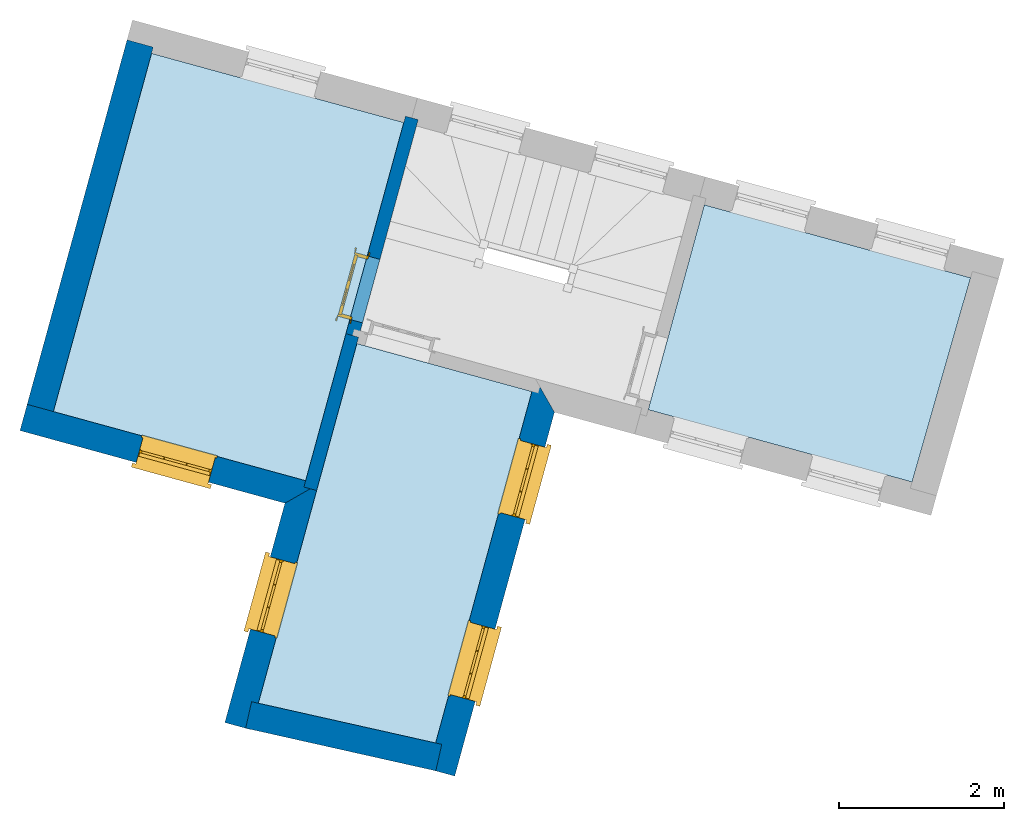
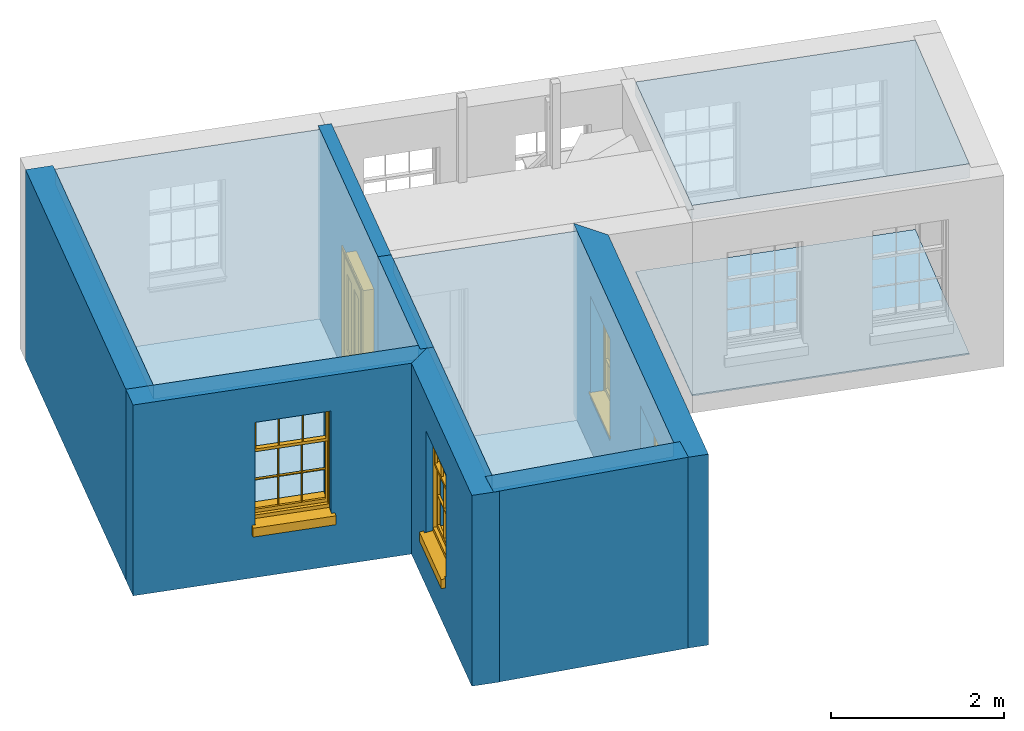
# One storey, part 1 of 4: 7 walls, 6 slabs, 4 windows, 1 door, 5 openings.
"""IFC4 building model written with IfcOpenShell, lengths in metres."""

from ifc_helpers import new_model, si_unit, frame, origin, origin_with_axes, place, context, subcontext, project, spatial, polyline, outline, extrude, faceted_brep, source, transform, mapped, material, layer, layer_set, layer_usage, type_object, type_shapes, element, fill, save


model = new_model("IFC4")

# Units and contexts
model_context = context("Model", 3, world=origin_with_axes())
body_context = subcontext(model_context, "Body", "Model", "MODEL_VIEW")
ifc_project = project(units=[si_unit("PLANEANGLEUNIT", "RADIAN"), si_unit("MASSUNIT", "GRAM", prefix="KILO"), si_unit("FORCEUNIT", "NEWTON", prefix="KILO"), si_unit("LENGTHUNIT", "METRE"), si_unit("AREAUNIT", "SQUARE_METRE"), si_unit("VOLUMEUNIT", "CUBIC_METRE")], contexts=[model_context, model_context])

# Sites, building, storey
site_1_placement = place(None, origin_with_axes())
site_1 = spatial("IfcSite", under=ifc_project, at=site_1_placement, Name="Tamar")
site_2_placement = place(site_1_placement, origin_with_axes())
site_2 = spatial("IfcSite", under=site_1, at=site_2_placement, Name="Site plot-29", CompositionType="ELEMENT")
building_placement = place(None, origin_with_axes())
building = spatial("IfcBuilding", under=site_2, at=building_placement, Name="Building plot-29", CompositionType="ELEMENT")
storey_placement = place(None, frame((0.0, 0.0, 27.85), z_axis=(0.0, 0.0, 1.0), x_axis=(1.0, 0.0, 0.0)))
storey = spatial("IfcBuildingStorey", under=building, at=storey_placement, Name="plot-29 1", CompositionType="ELEMENT", Elevation=27.85)

# Slabs
slab_1_placement = place(storey_placement, frame((275.742884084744, 261.851314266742, 2.5)))
element("IfcSlab", 1, at=slab_1_placement, inside=storey, Name="My Slab", ObjectType="Slab", PredefinedType="FLOOR", context=body_context, shape_type="SweptSolid", body=[
    extrude(outline(polyline([(0.0, 0.0), (-2.12536575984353, 0.58233975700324), (-3.3218194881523, -3.78435813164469), (-1.16918607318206, -4.26717911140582), (0.0, 0.0)])), origin_with_axes(), (0.0, 0.0, 1.0), 0.2),
])
slab_2_placement = place(storey_placement, frame((275.742884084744, 261.851314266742, 0.0)))
element("IfcSlab", 2, at=slab_2_placement, inside=storey, Name="My Slab", ObjectType="Slab", PredefinedType="FLOOR", context=body_context, shape_type="SweptSolid", body=[
    extrude(outline(polyline([(0.0, 0.0), (-2.12536575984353, 0.58233975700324), (-3.3218194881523, -3.78435813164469), (-1.16918607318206, -4.26717911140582), (0.0, 0.0)])), origin_with_axes(), (0.0, 0.0, 1.0), 0.02),
])
slab_3_placement = place(storey_placement, frame((271.124319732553, 265.95684025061, 2.5)))
element("IfcSlab", 3, at=slab_3_placement, inside=storey, Name="My Slab", ObjectType="Slab", PredefinedType="FLOOR", context=body_context, shape_type="SweptSolid", body=[
    extrude(outline(polyline([(0.0, 0.0), (-1.19153948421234, -4.34876236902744), (1.87116989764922, -5.18792966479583), (3.06270938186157, -0.83916729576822), (0.0, 0.0)])), origin_with_axes(), (0.0, 0.0, 1.0), 0.2),
])
slab_4_placement = place(storey_placement, frame((271.124319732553, 265.95684025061, 0.0)))
element("IfcSlab", 4, at=slab_4_placement, inside=storey, Name="My Slab", ObjectType="Slab", PredefinedType="FLOOR", context=body_context, shape_type="SweptSolid", body=[
    extrude(outline(polyline([(0.0, 0.0), (-1.19153948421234, -4.34876236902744), (1.87116989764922, -5.18792966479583), (3.06270938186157, -0.83916729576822), (0.0, 0.0)])), origin_with_axes(), (0.0, 0.0, 1.0), 0.02),
])
slab_5_placement = place(storey_placement, frame((280.358705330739, 260.752499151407, 2.5)))
element("IfcSlab", 5, at=slab_5_placement, inside=storey, Name="My Slab", ObjectType="Slab", PredefinedType="FLOOR", context=body_context, shape_type="SweptSolid", body=[
    extrude(outline(polyline([(0.0, 0.0), (0.709545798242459, 2.47975284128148), (-2.52236486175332, 3.36528045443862), (-3.20390724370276, 0.877854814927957), (0.0, 0.0)])), origin_with_axes(), (0.0, 0.0, 1.0), 0.2),
])
slab_6_placement = place(storey_placement, frame((280.358705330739, 260.752499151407, 0.0)))
element("IfcSlab", 6, at=slab_6_placement, inside=storey, Name="My Slab", ObjectType="Slab", PredefinedType="FLOOR", context=body_context, shape_type="SweptSolid", body=[
    extrude(outline(polyline([(0.0, 0.0), (0.709545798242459, 2.47975284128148), (-2.52236486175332, 3.36528045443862), (-3.20390724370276, 0.877854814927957), (0.0, 0.0)])), origin_with_axes(), (0.0, 0.0, 1.0), 0.02),
])

# Wall, openings, windows
ifc_material_1 = material(Name="Masonry")
ifc_layer_1 = layer(ifc_material_1, 0.33, ventilated=False)
ifc_layer_set_1 = layer_set([ifc_layer_1], Name="exterior_0.08_0.25")
ifc_layer_usage_1 = layer_usage(ifc_layer_set_1, "AXIS2", "POSITIVE", -0.25)
wall_type_1 = type_object("IfcWallType", Name="exterior_0.08_0.25", PredefinedType="SOLIDWALL", material=ifc_layer_set_1)
wall_1_placement = place(storey_placement, frame((274.630680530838, 257.489366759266, 0.0), z_axis=(0.0, 0.0, 1.0), x_axis=(0.264255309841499, 0.964452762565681, 0.0)))
wall_1 = element("IfcWall", 7, at=wall_1_placement, inside=storey, type_object=wall_type_1, material=ifc_layer_usage_1, Name="exterior", context=body_context, shape_type="SweptSolid", body=[
    extrude(outline(polyline([(-0.250000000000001, 0.0800000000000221), (-0.250000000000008, -0.250000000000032), (4.33079801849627, -0.250000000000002), (4.66079801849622, 0.0800000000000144), (-0.250000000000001, 0.0800000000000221)])), origin_with_axes(), (0.0, 0.0, 1.0), 2.7),
])
opening_1_placement = place(wall_1_placement, frame((0.690199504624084, 0.0, 0.75)))
opening_1 = element("IfcOpeningElement", 8, at=opening_1_placement, cuts=wall_1, Name="My Opening", ObjectType="Opening", context=body_context, shape_type="SweptSolid", body=[
    extrude(outline(polyline([(0.0, -0.270000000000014), (0.909999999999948, -0.270000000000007), (0.909999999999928, 1.1), (-2.03170813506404e-14, 1.09999999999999), (0.0, -0.270000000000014)])), origin_with_axes(), (0.0, 0.0, 1.0), 1.445),
])
opening_2_placement = place(wall_1_placement, frame((2.98059851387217, 0.0, 0.75)))
opening_2 = element("IfcOpeningElement", 9, at=opening_2_placement, cuts=wall_1, Name="My Opening", ObjectType="Opening", context=body_context, shape_type="SweptSolid", body=[
    extrude(outline(polyline([(0.0, -0.270000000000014), (0.909999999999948, -0.270000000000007), (0.909999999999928, 1.1), (-1.99840144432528e-14, 1.09999999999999), (0.0, -0.270000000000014)])), origin_with_axes(), (0.0, 0.0, 1.0), 1.445),
])
window_type = type_object("IfcWindowType", Name="sash_shorter", PartitioningType="DOUBLE_PANEL_HORIZONTAL", PredefinedType="NOTDEFINED")
shared_shape_1 = source(origin(), body_context, "Body", "Brep", [
    faceted_brep([(0.876875, 0.145, 0.999097), (0.876875, 0.145, 1.411875), (0.9, 0.145, 1.435), (0.033125, 0.145, 1.411875), (0.033125, 0.145, 0.999097), (0.01, 0.145, 1.435), (0.033125, 0.115, 1.411875), (0.01, 0.115, 1.435), (0.033125, 0.115, 0.999097), (0.876875, 0.115, 1.411875), (0.876875, 0.115, 0.999097), (0.9, 0.115, 1.435), (0.033125, 0.145, 0.960972), (0.01, 0.145, 0.960972), (0.033125, 0.145, 0.548195), (0.876875, 0.145, 0.960972), (0.876875, 0.145, 0.548195), (0.9, 0.145, 0.960972), (0.876875, 0.145, 0.538195), (0.876875, 0.145, 0.125417), (0.9, 0.145, 0.077167), (0.033125, 0.145, 0.125417), (0.033125, 0.145, 0.538195), (0.01, 0.145, 0.077167), (0.9, 0.115, 0.960972), (0.01, 0.115, 0.960972), (-0.0425, 0.0, 0.01), (-0.0425, -0.05, 0.001667), (0.0, 0.0, 0.01), (0.9525, 0.0, 0.01), (0.91, 0.0, 0.01), (0.9525, -0.05, 0.001667), (-0.02, 0.33, 0.077167), (0.0, 0.33, 0.077167), (-0.02, 0.36, 0.077167), (0.0, 0.19, 0.077167), (0.01, 0.19, 0.077167), (0.91, 0.19, 0.077167), (0.91, 0.33, 0.077167), (0.9, 0.19, 0.077167), (0.93, 0.33, 0.077167), (0.93, 0.36, 0.077167), (0.01, 0.145, 0.999097), (0.01, 0.175, 0.999097), (0.9, 0.145, 0.999097), (0.9, 0.175, 0.999097), (0.876875, 0.175, 0.125417), (0.876875, 0.175, 0.538195), (0.9, 0.175, 0.077167), (0.876875, 0.175, 0.548195), (0.876875, 0.175, 0.960972), (0.033125, 0.175, 0.125417), (0.01, 0.175, 0.077167), (0.033125, 0.175, 0.538195), (0.033125, 0.175, 0.960972), (0.033125, 0.175, 0.548195), (-0.02, 0.33, 0.052167), (-0.02, 0.36, 0.052167), (0.93, 0.36, 0.052167), (0.93, 0.33, 0.052167), (0.91, 0.33, 0.052167), (0.0, 0.33, 0.052167), (0.91, 0.1, 0.026667), (0.0, 0.1, 0.026667), (-0.0425, -0.05, -0.123333), (0.9525, -0.05, -0.123333), (-0.0425, 0.0, -0.123333), (0.9525, 0.0, -0.123333), (0.01, 0.19, 1.435), (0.9, 0.19, 1.435), (0.0, 0.19, 1.445), (0.91, 0.19, 1.445), (0.01, 0.1, 0.077167), (0.9, 0.1, 0.077167), (0.592292, 0.145, 0.125417), (0.592292, 0.175, 0.125417), (0.317708, 0.175, 0.125417), (0.317708, 0.145, 0.125417), (0.592292, 0.145, 0.548195), (0.317708, 0.145, 0.548195), (0.317708, 0.145, 0.538195), (0.592292, 0.145, 0.538195), (0.592292, 0.175, 0.548195), (0.317708, 0.175, 0.548195), (0.602292, 0.175, 0.548195), (0.602292, 0.145, 0.548195), (0.317708, 0.175, 0.538195), (0.307708, 0.175, 0.125417), (0.307708, 0.175, 0.538195), (0.602292, 0.175, 0.538195), (0.602292, 0.175, 0.125417), (0.592292, 0.175, 0.538195), (0.307708, 0.175, 0.548195), (0.317708, 0.175, 0.960972), (0.307708, 0.175, 0.960972), (0.602292, 0.175, 0.960972), (0.592292, 0.175, 0.960972), (0.307708, 0.145, 0.538195), (0.307708, 0.145, 0.125417), (0.307708, 0.145, 0.548195), (0.307708, 0.145, 0.960972), (0.592292, 0.145, 0.960972), (0.317708, 0.145, 0.960972), (0.602292, 0.145, 0.960972), (0.602292, 0.145, 0.538195), (0.602292, 0.145, 0.125417), (0.317708, 0.115, 1.411875), (0.307708, 0.115, 1.411875), (0.307708, 0.115, 0.999097), (0.317708, 0.115, 0.999097), (0.602292, 0.115, 1.411875), (0.592292, 0.115, 1.411875), (0.592292, 0.115, 0.999097), (0.602292, 0.115, 0.999097), (0.317708, 0.145, 0.999097), (0.307708, 0.145, 0.999097), (0.307708, 0.145, 1.411875), (0.317708, 0.145, 1.411875), (0.602292, 0.145, 0.999097), (0.592292, 0.145, 0.999097), (0.592292, 0.145, 1.411875), (0.602292, 0.145, 1.411875), (0.91, 0.1, 1.445), (0.9, 0.1, 1.435), (0.01, 0.1, 1.435), (0.0, 0.1, 1.445), (0.91, 0.0, 0.0), (0.0, 0.0, 0.0), (0.91, 0.33, 0.0), (0.0, 0.33, 0.0)], [[[0, 1, 2]], [[3, 4, 5]], [[6, 7, 8]], [[9, 10, 11]], [[12, 13, 14]], [[15, 16, 17]], [[18, 19, 20]], [[21, 22, 23]], [[24, 15, 17]], [[13, 12, 25]], [[26, 27, 28]], [[29, 30, 31]], [[32, 33, 34]], [[35, 36, 33]], [[37, 38, 39]], [[40, 41, 38]], [[42, 4, 43]], [[44, 45, 0]], [[46, 47, 48]], [[49, 50, 45]], [[51, 52, 53]], [[54, 55, 43]], [[38, 33, 36, 39]], [[41, 34, 33, 38]], [[56, 32, 34, 57]], [[57, 34, 41, 58]], [[58, 41, 40, 59]], [[57, 58, 60, 61]], [[52, 48, 39, 36]], [[62, 63, 28, 30]], [[27, 31, 30, 28]], [[27, 64, 65, 31]], [[66, 67, 65, 64]], [[2, 5, 68, 69]], [[68, 70, 71, 69]], [[20, 23, 72, 73]], [[73, 72, 63, 62]], [[74, 75, 76, 77]], [[78, 79, 80, 81]], [[78, 82, 83, 79]], [[16, 49, 84, 85]], [[86, 76, 87, 88]], [[89, 90, 75, 91]], [[92, 88, 53, 55]], [[82, 91, 86, 83]], [[93, 83, 92, 94]], [[95, 84, 82, 96]], [[89, 84, 49, 47]], [[97, 88, 87, 98]], [[22, 53, 88, 97]], [[81, 91, 75, 74]], [[80, 86, 91, 81]], [[77, 76, 86, 80]], [[99, 92, 55, 14]], [[100, 94, 92, 99]], [[101, 96, 82, 78]], [[79, 83, 93, 102]], [[85, 84, 95, 103]], [[104, 89, 47, 18]], [[105, 90, 89, 104]], [[104, 18, 16, 85]], [[80, 97, 98, 77]], [[104, 81, 74, 105]], [[103, 101, 78, 85]], [[99, 14, 22, 97]], [[102, 100, 99, 79]], [[106, 107, 108, 109]], [[110, 111, 112, 113]], [[114, 115, 116, 117]], [[118, 119, 120, 121]], [[107, 116, 115, 108]], [[111, 120, 119, 112]], [[109, 114, 117, 106]], [[113, 118, 121, 110]], [[85, 78, 81, 104]], [[84, 89, 91, 82]], [[83, 86, 88, 92]], [[79, 99, 97, 80]], [[109, 112, 119, 114]], [[102, 93, 96, 101]], [[106, 117, 120, 111]], [[98, 87, 51, 21]], [[6, 3, 116, 107]], [[110, 121, 1, 9]], [[19, 46, 90, 105]], [[26, 66, 64, 27]], [[29, 31, 65, 67]], [[25, 24, 112, 109]], [[11, 7, 106, 111]], [[75, 48, 52, 76]], [[43, 45, 96, 93]], [[45, 43, 114, 119]], [[5, 2, 120, 117]], [[24, 25, 102, 101]], [[42, 5, 4]], [[2, 44, 0]], [[49, 45, 48, 47]], [[52, 43, 55, 53]], [[14, 13, 23, 22]], [[20, 17, 16, 18]], [[24, 11, 10]], [[25, 8, 7]], [[8, 4, 3, 6]], [[9, 1, 0, 10]], [[15, 50, 49, 16]], [[18, 47, 46, 19]], [[21, 51, 53, 22]], [[14, 55, 54, 12]], [[44, 2, 69, 45]], [[68, 5, 42, 43]], [[36, 35, 70, 68]], [[39, 69, 71, 37]], [[62, 122, 123, 73]], [[63, 72, 124, 125]], [[8, 108, 115, 4]], [[113, 10, 0, 118]], [[94, 100, 12, 54]], [[17, 20, 73, 24]], [[72, 23, 13, 25]], [[52, 36, 68, 43]], [[69, 39, 48, 45]], [[11, 24, 73, 123]], [[7, 124, 72, 25]], [[23, 77, 98]], [[98, 21, 23]], [[105, 74, 20]], [[20, 19, 105]], [[20, 74, 77, 23]], [[113, 112, 24]], [[24, 10, 113]], [[25, 109, 108]], [[108, 8, 25]], [[110, 9, 11]], [[11, 111, 110]], [[7, 6, 107]], [[107, 106, 7]], [[5, 117, 116]], [[116, 3, 5]], [[121, 120, 2]], [[2, 1, 121]], [[11, 123, 124, 7]], [[122, 125, 124, 123]], [[43, 93, 94]], [[94, 54, 43]], [[96, 45, 95]], [[50, 95, 45]], [[15, 103, 95, 50]], [[48, 75, 90]], [[90, 46, 48]], [[87, 76, 52]], [[52, 51, 87]], [[103, 15, 24]], [[24, 101, 103]], [[100, 102, 25]], [[25, 12, 100]], [[115, 114, 43]], [[43, 4, 115]], [[118, 0, 45]], [[45, 119, 118]], [[71, 70, 125, 122]], [[70, 35, 63, 125]], [[122, 62, 37, 71]], [[126, 67, 66, 127]], [[60, 58, 59]], [[38, 60, 59, 40]], [[61, 56, 57]], [[32, 56, 61, 33]], [[61, 60, 128, 129]], [[62, 60, 38, 37]], [[126, 128, 60, 62]], [[33, 61, 63, 35]], [[61, 129, 127, 63]], [[128, 126, 127, 129]], [[28, 127, 66, 26]], [[63, 127, 28]], [[29, 67, 126, 30]], [[30, 126, 62]]]),
])
type_shapes(window_type, [shared_shape_1])
window_1_placement = place(storey_placement, frame((275.073471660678, 258.083682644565, 0.75), z_axis=(0.0, 0.0, 1.0), x_axis=(0.240472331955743, 0.877652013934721, 0.0)))
window_1 = element("IfcWindow", 10, at=window_1_placement, inside=storey, type_object=window_type, Name="bedroom outside window", OverallHeight=1.445, OverallWidth=0.91, context=body_context, shape_type="MappedRepresentation", body=[
    mapped(shared_shape_1, transform((0.0, 0.0, 0.0), scale=1.0)),
])
fill(opening_1, window_1)
window_2_placement = place(storey_placement, frame((275.678721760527, 260.292664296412, 0.75), z_axis=(0.0, 0.0, 1.0), x_axis=(0.240472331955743, 0.877652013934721, 0.0)))
window_2 = element("IfcWindow", 11, at=window_2_placement, inside=storey, type_object=window_type, Name="bedroom outside window", OverallHeight=1.445, OverallWidth=0.91, context=body_context, shape_type="MappedRepresentation", body=[
    mapped(shared_shape_1, transform((0.0, 0.0, 0.0), scale=1.0)),
])
fill(opening_2, window_2)

# Wall, opening, window
wall_2_placement = place(storey_placement, frame((269.834483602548, 261.552062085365, 0.0), z_axis=(0.0, 0.0, 1.0), x_axis=(0.96445276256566, -0.264255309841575, 0.0)))
wall_2 = element("IfcWall", 12, at=wall_2_placement, inside=storey, type_object=wall_type_1, material=ifc_layer_usage_1, Name="exterior", context=body_context, shape_type="SweptSolid", body=[
    extrude(outline(polyline([(-0.249999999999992, 0.0799999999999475), (-0.249999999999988, -0.250000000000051), (3.08559293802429, -0.250000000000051), (3.41559293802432, 0.0800000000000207), (-0.249999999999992, 0.0799999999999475)])), origin_with_axes(), (0.0, 0.0, 1.0), 2.7),
])
opening_3_placement = place(wall_2_placement, frame((1.21279646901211, 0.0, 0.75)))
opening_3 = element("IfcOpeningElement", 13, at=opening_3_placement, cuts=wall_2, Name="My Opening", ObjectType="Opening", context=body_context, shape_type="SweptSolid", body=[
    extrude(outline(polyline([(0.0, -0.270000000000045), (0.910000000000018, -0.270000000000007), (0.910000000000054, 1.10000000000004), (3.61932706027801e-14, 1.10000000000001), (0.0, -0.270000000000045)])), origin_with_axes(), (0.0, 0.0, 1.0), 1.445),
])
window_3_placement = place(storey_placement, frame((270.932819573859, 260.971171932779, 0.75), z_axis=(0.0, 0.0, 1.0), x_axis=(0.877652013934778, -0.2404723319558, 0.0)))
window_3 = element("IfcWindow", 14, at=window_3_placement, inside=storey, type_object=window_type, Name="bedroom outside window", OverallHeight=1.445, OverallWidth=0.91, context=body_context, shape_type="MappedRepresentation", body=[
    mapped(shared_shape_1, transform((0.0, 0.0, 0.0), scale=1.0)),
])
fill(opening_3, window_3)

wall_3_placement = place(storey_placement, frame((273.05150542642, 260.670613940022, 0.0), z_axis=(0.0, 0.0, 1.0), x_axis=(-0.264255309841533, -0.964452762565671, 0.0)))
wall_3 = element("IfcWall", 15, at=wall_3_placement, inside=storey, type_object=wall_type_1, material=ifc_layer_usage_1, Name="exterior", context=body_context, shape_type="SweptSolid", body=[
    extrude(outline(polyline([(-0.0800000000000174, 0.0800000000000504), (0.250000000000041, -0.249999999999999), (3.01153589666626, -0.250000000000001), (3.01153589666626, 0.0800000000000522), (-0.0800000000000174, 0.0800000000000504)])), origin_with_axes(), (0.0, 0.0, 1.0), 2.7),
])
opening_4_placement = place(wall_3_placement, frame((0.925767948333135, 0.0, 0.75)))
opening_4 = element("IfcOpeningElement", 16, at=opening_4_placement, cuts=wall_3, Name="My Opening", ObjectType="Opening", context=body_context, shape_type="SweptSolid", body=[
    extrude(outline(polyline([(0.0, -0.270000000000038), (0.910000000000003, -0.269999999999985), (0.909999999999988, 1.10000000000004), (-1.37667655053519e-14, 1.09999999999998), (0.0, -0.270000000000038)])), origin_with_axes(), (0.0, 0.0, 1.0), 1.445),
])
window_4_placement = place(storey_placement, frame((272.546464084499, 259.849103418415, 0.75), z_axis=(0.0, 0.0, 1.0), x_axis=(-0.240472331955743, -0.877652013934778, 0.0)))
window_4 = element("IfcWindow", 17, at=window_4_placement, inside=storey, type_object=window_type, Name="bedroom outside window", OverallHeight=1.445, OverallWidth=0.91, context=body_context, shape_type="MappedRepresentation", body=[
    mapped(shared_shape_1, transform((0.0, 0.0, 0.0), scale=1.0)),
])
fill(opening_4, window_4)

# Walls
ifc_material_2 = material(Name="Masonry")
ifc_layer_2 = layer(ifc_material_2, 0.33, ventilated=False)
ifc_layer_set_2 = layer_set([ifc_layer_2], Name="party_0.08_0.25")
ifc_layer_usage_2 = layer_usage(ifc_layer_set_2, "AXIS2", "POSITIVE", -0.25)
wall_type_2 = type_object("IfcWallType", Name="party_0.08_0.25", PredefinedType="SOLIDWALL", material=ifc_layer_set_2)
wall_4_placement = place(storey_placement, frame((272.321754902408, 258.007243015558, 0.0), z_axis=(0.0, 0.0, 1.0), x_axis=(0.975757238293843, -0.218855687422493, 0.0)))
element("IfcWall", 18, at=wall_4_placement, inside=storey, type_object=wall_type_2, material=ifc_layer_usage_2, Name="party", context=body_context, shape_type="SweptSolid", body=[
    extrude(outline(polyline([(-1.04756067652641e-14, 0.0799999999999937), (-9.5938422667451e-15, -0.250000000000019), (2.36629105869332, -0.250000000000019), (2.36629105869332, 0.0799999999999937), (-1.04756067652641e-14, 0.0799999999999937)])), origin_with_axes(), (0.0, 0.0, 1.0), 2.7),
])
wall_5_placement = place(storey_placement, frame((271.068303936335, 266.055136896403, 0.0), z_axis=(0.0, 0.0, 1.0), x_axis=(-0.264255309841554, -0.964452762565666, 0.0)))
element("IfcWall", 19, at=wall_5_placement, inside=storey, type_object=wall_type_2, material=ifc_layer_usage_2, Name="party", context=body_context, shape_type="SweptSolid", body=[
    extrude(outline(polyline([(2.96859905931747e-14, 0.0799999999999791), (2.62165714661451e-14, -0.25000000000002), (4.66904651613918, -0.250000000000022), (4.66904651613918, 0.0799999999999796), (2.96859905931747e-14, 0.0799999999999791)])), origin_with_axes(), (0.0, 0.0, 1.0), 2.7),
])
ifc_material_3 = material(Name="Masonry")
ifc_layer_3 = layer(ifc_material_3, 0.16, ventilated=False)
ifc_layer_set_3 = layer_set([ifc_layer_3], Name="interior_0.08_0.08")
ifc_layer_usage_3 = layer_usage(ifc_layer_set_3, "AXIS2", "POSITIVE", -0.08)
wall_type_3 = type_object("IfcWallType", Name="interior_0.08_0.08", PredefinedType="SOLIDWALL", material=ifc_layer_set_3)
wall_6_placement = place(storey_placement, frame((273.561502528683, 262.531950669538, 0.0), z_axis=(0.0, 0.0, 1.0), x_axis=(-0.264255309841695, -0.964452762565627, 0.0)))
element("IfcWall", 20, at=wall_6_placement, inside=storey, type_object=wall_type_3, material=ifc_layer_usage_3, Name="interior", context=body_context, shape_type="SweptSolid", body=[
    extrude(outline(polyline([(1.79620354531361e-14, 0.0799999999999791), (-1.80073597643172e-14, -0.0799999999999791), (1.92994079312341, -0.0799999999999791), (1.92994079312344, 0.0799999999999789), (1.79620354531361e-14, 0.0799999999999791)])), origin_with_axes(), (0.0, 0.0, 1.0), 2.7),
])

# Wall, opening, door
wall_7_placement = place(storey_placement, frame((273.561502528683, 262.531950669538, 0.0), z_axis=(0.0, 0.0, 1.0), x_axis=(0.264255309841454, 0.964452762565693, 0.0)))
wall_7 = element("IfcWall", 21, at=wall_7_placement, inside=storey, type_object=wall_type_3, material=ifc_layer_usage_3, Name="interior", context=body_context, shape_type="SweptSolid", body=[
    extrude(outline(polyline([(-3.18274159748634e-14, 0.0800000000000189), (3.18372131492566e-14, -0.0800000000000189), (2.73910572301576, -0.0800000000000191), (2.7391057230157, 0.0800000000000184), (-3.18274159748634e-14, 0.0800000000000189)])), origin_with_axes(), (0.0, 0.0, 1.0), 2.7),
])
opening_5_placement = place(wall_7_placement, frame((0.17999999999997, 0.0, 0.0199999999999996)))
opening_5 = element("IfcOpeningElement", 22, at=opening_5_placement, cuts=wall_7, Name="My Opening", ObjectType="Opening", context=body_context, shape_type="SweptSolid", body=[
    extrude(outline(polyline([(0.0, -0.100000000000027), (0.800000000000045, -0.100000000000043), (0.800000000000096, 1.10000000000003), (5.12090370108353e-14, 1.10000000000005), (0.0, -0.100000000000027)])), origin_with_axes(), (0.0, 0.0, 1.0), 2.1),
])
door_type = type_object("IfcDoorType", Name="door_inside", OperationType="SINGLE_SWING_LEFT", PredefinedType="NOTDEFINED")
shared_shape_2 = source(origin(), body_context, "Body", "Brep", [
    faceted_brep([(0.773, 0.33, 1.895), (0.66, 0.33, 1.895), (0.66, 0.33, 2.073), (0.773, 0.33, 2.073), (0.773, 0.33, 0.82), (0.66, 0.33, 0.82), (0.45, 0.33, 1.895), (0.45, 0.33, 2.073), (0.773, 0.33, 0.62), (0.66, 0.33, 0.62), (0.66, 0.315, 0.82), (0.66, 0.315, 1.895), (0.45, 0.315, 1.895), (0.35, 0.33, 1.895), (0.35, 0.33, 2.073), (0.773, 0.33, 0.225), (0.66, 0.33, 0.225), (0.45, 0.33, 0.62), (0.45, 0.33, 0.82), (0.45, 0.315, 0.82), (0.35, 0.33, 0.82), (0.14, 0.33, 2.073), (0.14, 0.33, 1.895), (0.773, 0.33, 0.0), (0.66, 0.33, 0.0), (0.66, 0.315, 0.225), (0.66, 0.315, 0.62), (0.45, 0.315, 0.62), (0.35, 0.33, 0.62), (0.35, 0.315, 0.82), (0.35, 0.315, 1.895), (0.14, 0.315, 1.895), (0.027, 0.33, 2.073), (0.027, 0.33, 1.895), (0.773, 0.292, 0.0), (0.66, 0.292, 0.0), (0.45, 0.33, 0.0), (0.45, 0.33, 0.225), (0.45, 0.315, 0.225), (0.35, 0.33, 0.225), (0.14, 0.33, 0.82), (0.14, 0.33, 0.62), (0.14, 0.315, 0.82), (0.027, 0.33, 0.82), (0.773, 0.292, 0.225), (0.66, 0.292, 0.225), (0.45, 0.292, 0.0), (0.35, 0.33, 0.0), (0.35, 0.315, 0.225), (0.35, 0.315, 0.62), (0.14, 0.315, 0.62), (0.027, 0.33, 0.62), (0.773, 0.292, 0.62), (0.66, 0.292, 0.62), (0.45, 0.292, 0.225), (0.35, 0.292, 0.0), (0.14, 0.33, 0.225), (0.14, 0.33, 0.0), (0.14, 0.315, 0.225), (0.027, 0.33, 0.225), (0.773, 0.292, 0.82), (0.66, 0.292, 0.82), (0.66, 0.307, 0.62), (0.66, 0.307, 0.225), (0.45, 0.307, 0.225), (0.35, 0.292, 0.225), (0.14, 0.292, 0.0), (0.027, 0.33, 0.0), (0.773, 0.292, 1.895), (0.66, 0.292, 1.895), (0.45, 0.292, 0.62), (0.45, 0.292, 0.82), (0.45, 0.307, 0.62), (0.35, 0.292, 0.62), (0.14, 0.292, 0.225), (0.027, 0.292, 0.0), (0.773, 0.292, 2.073), (0.66, 0.292, 2.073), (0.66, 0.307, 1.895), (0.66, 0.307, 0.82), (0.45, 0.307, 0.82), (0.35, 0.292, 0.82), (0.35, 0.307, 0.62), (0.35, 0.307, 0.225), (0.14, 0.307, 0.225), (0.027, 0.292, 0.225), (0.45, 0.292, 1.895), (0.45, 0.292, 2.073), (0.45, 0.307, 1.895), (0.35, 0.292, 1.895), (0.14, 0.292, 0.82), (0.14, 0.292, 0.62), (0.14, 0.307, 0.62), (0.027, 0.292, 0.62), (0.35, 0.292, 2.073), (0.35, 0.307, 1.895), (0.35, 0.307, 0.82), (0.14, 0.307, 0.82), (0.027, 0.292, 0.82), (0.14, 0.292, 2.073), (0.14, 0.292, 1.895), (0.14, 0.307, 1.895), (0.027, 0.292, 1.895), (0.027, 0.292, 2.073), (0.02, 0.335, 0.0), (0.005, 0.34, 0.0), (0.005, 0.34, 2.095), (0.02, 0.335, 2.08), (0.02, 0.33, 0.0), (0.0, 0.335, 0.0), (0.0, 0.335, 2.1), (0.795, 0.34, 2.095), (0.78, 0.335, 2.08), (0.02, 0.33, 2.08), (0.0, 0.33, 0.0), (-0.032, 0.345, 0.0), (-0.032, 0.345, 2.132), (0.8, 0.335, 2.1), (0.795, 0.34, 0.0), (0.78, 0.335, 0.0), (0.78, 0.33, 2.08), (0.04, 0.29, 0.0), (0.025, 0.29, 0.0), (0.025, 0.29, 2.075), (0.04, 0.29, 2.06), (-0.04, 0.34, 0.0), (-0.04, 0.34, 2.14), (0.832, 0.345, 2.132), (0.8, 0.335, 0.0), (0.78, 0.33, 0.0), (0.8, 0.33, 0.0), (0.86, 0.33, 0.0), (0.86, 0.33, 2.16), (0.8, 0.33, 2.1), (-0.06, 0.33, 2.16), (0.0, 0.33, 2.1), (-0.06, 0.33, 0.0), (-0.04, 0.345, 0.0), (-0.04, 0.345, 2.14), (0.84, 0.34, 2.14), (0.832, 0.345, 0.0), (0.84, 0.34, 0.0), (0.86, 0.345, 0.0), (0.86, 0.345, 2.16), (-0.06, 0.345, 2.16), (-0.06, 0.345, 0.0), (0.84, 0.345, 0.0), (0.84, 0.345, 2.14), (-0.025, 0.155, 0.0), (-0.025, 0.16, 0.0), (-0.025, 0.16, 2.125), (-0.025, 0.155, 2.125), (-0.017, 0.155, 0.0), (-0.017, 0.155, 2.117), (0.825, 0.16, 2.125), (0.825, 0.155, 2.125), (0.825, 0.155, 0.0), (0.845, 0.155, 0.0), (-0.045, 0.155, 2.145), (-0.045, 0.155, 0.0), (0.845, 0.155, 2.145), (0.015, 0.165, 0.0), (0.015, 0.165, 2.085), (0.817, 0.155, 2.117), (0.825, 0.16, 0.0), (0.845, 0.17, 0.0), (0.845, 0.17, 2.145), (-0.045, 0.17, 2.145), (-0.045, 0.17, 0.0), (0.02, 0.16, 0.0), (0.02, 0.16, 2.08), (0.785, 0.165, 2.085), (0.817, 0.155, 0.0), (0.8, 0.17, 0.0), (0.8, 0.17, 2.1), (0.0, 0.17, 2.1), (0.0, 0.17, 0.0), (0.035, 0.165, 0.0), (0.035, 0.165, 2.065), (0.78, 0.16, 2.08), (0.785, 0.165, 0.0), (0.775, 0.29, 2.075), (0.76, 0.29, 2.06), (0.035, 0.17, 2.065), (0.035, 0.17, 0.0), (0.765, 0.165, 2.065), (0.78, 0.16, 0.0), (0.765, 0.17, 0.0), (0.765, 0.17, 2.065), (0.765, 0.165, 0.0), (0.04, 0.17, 2.06), (0.04, 0.17, 0.0), (0.76, 0.17, 2.06), (0.76, 0.17, 0.0), (0.76, 0.29, 0.0), (0.775, 0.29, 0.0), (0.025, 0.33, 0.0), (0.025, 0.33, 2.075), (0.775, 0.33, 0.0), (0.775, 0.33, 2.075)], [[[0, 1, 2, 3]], [[1, 0, 4, 5]], [[1, 6, 7, 2]], [[8, 9, 5, 4]], [[1, 5, 10, 11]], [[6, 1, 11, 12]], [[6, 13, 14, 7]], [[15, 16, 9, 8]], [[9, 17, 18, 5]], [[5, 18, 19, 10]], [[10, 19, 12, 11]], [[18, 6, 12, 19]], [[18, 20, 13, 6]], [[21, 14, 13, 22]], [[23, 24, 16, 15]], [[9, 16, 25, 26]], [[17, 9, 26, 27]], [[17, 28, 20, 18]], [[13, 20, 29, 30]], [[22, 13, 30, 31]], [[32, 21, 22, 33]], [[34, 35, 24, 23]], [[24, 36, 37, 16]], [[16, 37, 38, 25]], [[25, 38, 27, 26]], [[37, 17, 27, 38]], [[37, 39, 28, 17]], [[40, 20, 28, 41]], [[20, 40, 42, 29]], [[31, 30, 29, 42]], [[40, 22, 31, 42]], [[33, 22, 40, 43]], [[35, 34, 44, 45]], [[35, 46, 36, 24]], [[36, 47, 39, 37]], [[28, 39, 48, 49]], [[41, 28, 49, 50]], [[43, 40, 41, 51]], [[45, 44, 52, 53]], [[46, 35, 45, 54]], [[46, 55, 47, 36]], [[56, 39, 47, 57]], [[39, 56, 58, 48]], [[50, 49, 48, 58]], [[56, 41, 50, 58]], [[51, 41, 56, 59]], [[53, 52, 60, 61]], [[45, 53, 62, 63]], [[54, 45, 63, 64]], [[55, 46, 54, 65]], [[55, 66, 57, 47]], [[59, 56, 57, 67]], [[61, 60, 68, 69]], [[70, 53, 61, 71]], [[53, 70, 72, 62]], [[72, 64, 63, 62]], [[70, 54, 64, 72]], [[65, 54, 70, 73]], [[65, 74, 66, 55]], [[67, 57, 66, 75]], [[69, 68, 76, 77]], [[61, 69, 78, 79]], [[71, 61, 79, 80]], [[73, 70, 71, 81]], [[65, 73, 82, 83]], [[74, 65, 83, 84]], [[74, 85, 75, 66]], [[86, 69, 77, 87]], [[69, 86, 88, 78]], [[88, 80, 79, 78]], [[86, 71, 80, 88]], [[81, 71, 86, 89]], [[73, 81, 90, 91]], [[73, 91, 92, 82]], [[83, 82, 92, 84]], [[91, 74, 84, 92]], [[91, 93, 85, 74]], [[89, 86, 87, 94]], [[81, 89, 95, 96]], [[90, 81, 96, 97]], [[90, 98, 93, 91]], [[94, 99, 100, 89]], [[89, 100, 101, 95]], [[101, 97, 96, 95]], [[100, 90, 97, 101]], [[100, 102, 98, 90]], [[99, 103, 102, 100]], [[32, 103, 99, 21]], [[102, 103, 32, 33]], [[98, 102, 33, 43]], [[21, 99, 94, 14]], [[94, 87, 7, 14]], [[7, 87, 77, 2]], [[76, 3, 2, 77]], [[43, 51, 93, 98]], [[51, 59, 85, 93]], [[67, 75, 85, 59]], [[34, 23, 15, 44]], [[44, 15, 8, 52]], [[52, 8, 4, 60]], [[0, 68, 60, 4]], [[0, 3, 76, 68]], [[104, 105, 106, 107]], [[104, 108, 109, 105]], [[105, 109, 110, 106]], [[107, 106, 111, 112]], [[107, 113, 108, 104]], [[114, 109, 108]], [[109, 115, 116, 110]], [[106, 110, 117, 111]], [[112, 111, 118, 119]], [[113, 107, 112, 120]], [[121, 122, 123, 124]], [[115, 109, 114, 125]], [[115, 125, 126, 116]], [[110, 116, 127, 117]], [[111, 117, 128, 118]], [[118, 128, 129, 119]], [[120, 112, 119, 129]], [[130, 129, 128]], [[130, 131, 132, 133]], [[133, 132, 134, 135]], [[135, 134, 136, 114]], [[136, 125, 114]], [[125, 137, 138, 126]], [[116, 126, 139, 127]], [[117, 127, 140, 128]], [[141, 130, 128, 140]], [[131, 130, 141]], [[131, 142, 143, 132]], [[132, 143, 144, 134]], [[134, 144, 145, 136]], [[137, 125, 136, 145]], [[143, 142, 146]], [[143, 146, 147]], [[137, 145, 144]], [[143, 147, 138]], [[138, 137, 144]], [[143, 138, 144]], [[126, 138, 147, 139]], [[127, 139, 141, 140]], [[142, 131, 141, 146]], [[139, 147, 146, 141]], [[148, 149, 150, 151]], [[149, 152, 153, 150]], [[151, 150, 154, 155]], [[155, 156, 157]], [[158, 159, 148]], [[158, 148, 151]], [[155, 157, 160]], [[158, 151, 155]], [[155, 160, 158]], [[152, 161, 162, 153]], [[150, 153, 163, 154]], [[155, 154, 164, 156]], [[156, 164, 165, 157]], [[157, 165, 166, 160]], [[160, 166, 167, 158]], [[158, 167, 168, 159]], [[161, 169, 170, 162]], [[153, 162, 171, 163]], [[154, 163, 172, 164]], [[165, 164, 173]], [[165, 173, 174, 166]], [[166, 174, 175, 167]], [[167, 175, 176, 168]], [[169, 177, 178, 170]], [[162, 170, 179, 171]], [[163, 171, 180, 172]], [[172, 180, 173, 164]], [[124, 123, 181, 182]], [[183, 178, 177, 184]], [[170, 178, 185, 179]], [[171, 179, 186, 180]], [[187, 173, 180]], [[185, 188, 187, 189]], [[188, 185, 178, 183]], [[179, 185, 189, 186]], [[189, 187, 180, 186]], [[190, 183, 184, 191]], [[192, 188, 183, 190]], [[191, 184, 122, 121]], [[124, 190, 191, 121]], [[193, 187, 188, 192]], [[182, 192, 190, 124]], [[184, 176, 122]], [[194, 195, 187, 193]], [[192, 182, 194, 193]], [[161, 176, 184]], [[114, 108, 122, 176]], [[173, 187, 195]], [[152, 149, 176, 161]], [[169, 161, 184, 177]], [[196, 122, 108]], [[176, 175, 135, 114]], [[173, 195, 129, 130]], [[176, 149, 168]], [[123, 122, 196, 197]], [[196, 108, 113, 197]], [[175, 174, 133, 135]], [[198, 129, 195]], [[133, 174, 173, 130]], [[159, 168, 149, 148]], [[181, 123, 197, 199]], [[197, 113, 120, 199]], [[199, 120, 129, 198]], [[195, 181, 199, 198]], [[195, 194, 182, 181]]]),
])
type_shapes(door_type, [shared_shape_2])
door_placement = place(storey_placement, frame((273.705513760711, 262.679126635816, 0.0199999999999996), z_axis=(0.0, 0.0, 1.0), x_axis=(0.21140424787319, 0.771562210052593, 0.0)))
door = element("IfcDoor", 23, at=door_placement, inside=storey, type_object=door_type, Name="bedroom inside door", OverallHeight=2.1, OverallWidth=0.8, context=body_context, shape_type="MappedRepresentation", body=[
    mapped(shared_shape_2, transform((0.0, 0.0, 0.0), scale=1.0)),
])
fill(opening_5, door)

save(model, "model.ifc")
